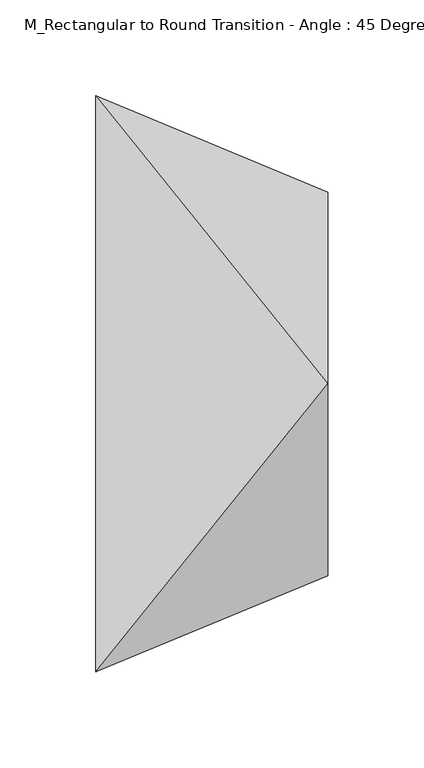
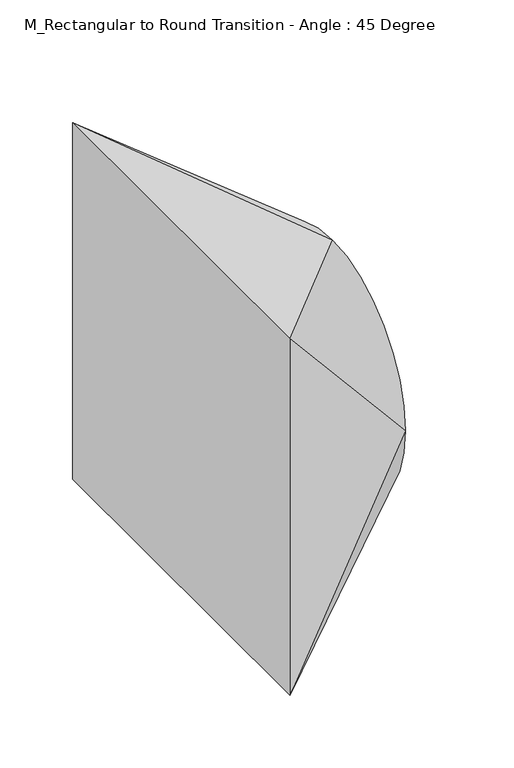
"""IFC4 building model written with IfcOpenShell, lengths in millimetres: duct fitting geometry, M_Rectangular to Round Transition - Angle : 45 Degree."""

import ifcopenshell
import ifcopenshell.guid

model = None  # the IFC model being written
_history = None  # IfcOwnerHistory: only IFC2X3 demands one
_inside = {}  # id of a spatial element -> (the spatial element, [elements in it])
_under = {}  # id of a project, library or spatial element -> (it, [spatial elements below it])
_declared = {}  # id of a project -> (the project, [libraries it declares])
_typed = {}  # id of a type object -> (the type object, [elements of that type])
_made_of = {}  # id of a material, layer set ... -> (it, [elements and type objects made of it])


def new_model(schema):
    """Start an empty IFC model of exactly this schema.

    Asked for "IFC4X3", IfcOpenShell would pick the latest addendum, in which some entities
    have other attributes; the version numbers below select the first issue.
    IFC2X3 requires an IfcOwnerHistory on every rooted entity: one is made here for all.
    """
    global model, _history
    if schema == "IFC4X3":
        model = ifcopenshell.file(schema_version=(4, 3, 0, 0))
    else:
        model = ifcopenshell.file(schema=schema)
    _inside.clear()
    _under.clear()
    _declared.clear()
    _typed.clear()
    _made_of.clear()
    _history = None
    if model.schema == "IFC2X3":
        org = make("IfcOrganization", Name="unknown")
        user = make(
            "IfcPersonAndOrganization",
            ThePerson=make("IfcPerson", FamilyName="unknown"),
            TheOrganization=org,
        )
        app = make(
            "IfcApplication",
            ApplicationDeveloper=org,
            Version="unknown",
            ApplicationFullName="unknown",
            ApplicationIdentifier="unknown",
        )
        _history = make(
            "IfcOwnerHistory",
            OwningUser=user,
            OwningApplication=app,
            ChangeAction="ADDED",
            CreationDate=0,
        )
    return model


def make(cls, **values):
    """One entity of the class cls with the attributes given. An attribute that is None is left unset."""
    return model.create_entity(
        cls, **{name: value for name, value in values.items() if value is not None}
    )


def rooted(cls, **values):
    """An entity with a GlobalId (a new one), such as an element, a storey or a relation."""
    return make(cls, GlobalId=ifcopenshell.guid.new(), OwnerHistory=_history, **values)


def si_unit(unit_type, name, prefix=None):
    """IfcSIUnit, for example si_unit("LENGTHUNIT", "METRE", prefix="MILLI")."""
    return make("IfcSIUnit", UnitType=unit_type, Prefix=prefix, Name=name)


def assignment(units):
    """IfcUnitAssignment: the units of a project."""
    return None if units is None else make("IfcUnitAssignment", Units=units)


def point(xyz):
    """IfcCartesianPoint."""
    return None if xyz is None else make("IfcCartesianPoint", Coordinates=xyz)


def direction(xyz):
    """IfcDirection."""
    return None if xyz is None else make("IfcDirection", DirectionRatios=xyz)


def frame(location, z_axis=None, x_axis=None):
    """IfcAxis2Placement3D, a coordinate frame: its origin and axes. An axis left out is left unset."""
    return make(
        "IfcAxis2Placement3D",
        Location=point(location),
        Axis=direction(z_axis),
        RefDirection=direction(x_axis),
    )


def origin():
    """The frame at (0, 0, 0) with its axes left unset."""
    return frame((0.0, 0.0, 0.0))


def place(relative_to, where):
    """IfcLocalPlacement: puts the frame where relative to a parent placement (None: the world)."""
    return make(
        "IfcLocalPlacement", PlacementRelTo=relative_to, RelativePlacement=where
    )


def context(
    kind, dimensions, precision=None, world=None, true_north=None, identifier=None
):
    """IfcGeometricRepresentationContext, for example the 3D "Model" context."""
    return make(
        "IfcGeometricRepresentationContext",
        ContextIdentifier=identifier,
        ContextType=kind,
        CoordinateSpaceDimension=dimensions,
        Precision=precision,
        WorldCoordinateSystem=world,
        TrueNorth=true_north,
    )


def project(units=None, contexts=None):
    """IfcProject with its units and contexts."""
    return rooted(
        "IfcProject",
        Name="project",
        RepresentationContexts=contexts,
        UnitsInContext=assignment(units),
    )


def spatial(cls, under=None, at=None, **own):
    """A site, building, storey or space (cls), placed at a placement, below another one or the project."""
    s = rooted(cls, ObjectPlacement=at, **own)
    if under is not None:
        _under.setdefault(under.id(), (under, []))[1].append(s)
    return s


def circle_curve(where, radius):
    """IfcCircle in the frame where."""
    return make("IfcCircle", Position=where, Radius=radius)


def shape(context_of_items, identifier, shape_type, items):
    """IfcShapeRepresentation: the items that make up one representation, for example the "Body"."""
    return make(
        "IfcShapeRepresentation",
        ContextOfItems=context_of_items,
        RepresentationIdentifier=identifier,
        RepresentationType=shape_type,
        Items=items,
    )


def source(mapping_origin, context_of_items, identifier, shape_type, items):
    """IfcRepresentationMap: a shape defined once, which mapped items show again and again."""
    return make(
        "IfcRepresentationMap",
        MappingOrigin=mapping_origin,
        MappedRepresentation=shape(context_of_items, identifier, shape_type, items),
    )


def transform(
    local_origin,
    x_axis=None,
    y_axis=None,
    z_axis=None,
    scale=None,
    scale2=None,
    scale3=None,
    uniform=True,
):
    """IfcCartesianTransformationOperator3D, or its non-uniform kind. x_axis, y_axis, z_axis: its Axis1, 2, 3."""
    if uniform:
        return make(
            "IfcCartesianTransformationOperator3D",
            Axis1=direction(x_axis),
            Axis2=direction(y_axis),
            LocalOrigin=point(local_origin),
            Scale=scale,
            Axis3=direction(z_axis),
        )
    return make(
        "IfcCartesianTransformationOperator3DnonUniform",
        Axis1=direction(x_axis),
        Axis2=direction(y_axis),
        LocalOrigin=point(local_origin),
        Scale=scale,
        Axis3=direction(z_axis),
        Scale2=scale2,
        Scale3=scale3,
    )


def mapped(mapping_source, mapping_target):
    """IfcMappedItem: shows the shape of a source again, moved by a transform."""
    return make(
        "IfcMappedItem", MappingSource=mapping_source, MappingTarget=mapping_target
    )


def made_of(thing, what):
    """Note that an element or type object is made of a material, layer set ...; save() writes the relation."""
    if what is not None:
        _made_of.setdefault(what.id(), (what, []))[1].append(thing)
    return thing


def element(
    cls,
    number,
    at=None,
    inside=None,
    cuts=None,
    type_object=None,
    material=None,
    context=None,
    identifier="Body",
    shape_type=None,
    held_by="IfcProductDefinitionShape",
    body=None,
    shapes=None,
    **own,
):
    """One element of the class cls, such as IfcWall. Its Tag is "e" and its number.

    at: its placement. inside: the storey or other place that contains it. cuts: it is an
    opening in that element (IfcRelVoidsElement). A single representation is given by context,
    identifier, shape_type and body (its items); several are given by shapes. held_by: the class
    of the entity that holds the representations. save() writes the other relations.
    """
    e = rooted(cls, Tag="e%d" % number, ObjectPlacement=at, **own)
    if body is not None:
        shapes = [shape(context, identifier, shape_type, body)]
    if shapes is not None:
        e.Representation = make(held_by, Representations=shapes)
    if inside is not None:
        _inside.setdefault(inside.id(), (inside, []))[1].append(e)
    if cuts is not None:
        rooted(
            "IfcRelVoidsElement", RelatingBuildingElement=cuts, RelatedOpeningElement=e
        )
    if type_object is not None:
        _typed.setdefault(type_object.id(), (type_object, []))[1].append(e)
    return made_of(e, material)


def aggregate(whole, parts):
    """IfcRelAggregates: a whole, such as a stair, and the parts it consists of."""
    return rooted("IfcRelAggregates", RelatingObject=whole, RelatedObjects=parts)


def save(model, path):
    """Write the relations noted so far, then the file.

    IfcRelAggregates (storeys below a building ...), IfcRelContainedInSpatialStructure (elements
    in a storey), IfcRelDefinesByType, IfcRelAssociatesMaterial and IfcRelDeclares: one each for
    every whole, place, type object, material and project.
    """
    for whole, parts in _under.values():
        aggregate(whole, parts)
    for where, things in _inside.values():
        rooted(
            "IfcRelContainedInSpatialStructure",
            RelatedElements=things,
            RelatingStructure=where,
        )
    for kind, things in _typed.values():
        rooted("IfcRelDefinesByType", RelatedObjects=things, RelatingType=kind)
    for what, things in _made_of.values():
        rooted("IfcRelAssociatesMaterial", RelatedObjects=things, RelatingMaterial=what)
    for by, libraries in _declared.values():
        rooted("IfcRelDeclares", RelatingContext=by, RelatedDefinitions=libraries)
    model.write(path)


def plane_surface(at):
    """IfcPlane: the flat surface through the origin of the frame at, square to its z axis."""
    return make("IfcPlane", Position=at)


def spline_surface(u_degree, v_degree, points, u_multiplicities, v_multiplicities, u_knots, v_knots, weights=None):
    """IfcBSplineSurfaceWithKnots; with weights, IfcRationalBSplineSurfaceWithKnots. points: one row for each step in u."""
    own = dict(
        UDegree=u_degree,
        VDegree=v_degree,
        ControlPointsList=[[point(p) for p in row] for row in points],
        SurfaceForm="UNSPECIFIED",
        UClosed=False,
        VClosed=False,
        SelfIntersect=False,
        UMultiplicities=u_multiplicities,
        VMultiplicities=v_multiplicities,
        UKnots=u_knots,
        VKnots=v_knots,
        KnotSpec="UNSPECIFIED",
    )
    if weights is None:
        return make("IfcBSplineSurfaceWithKnots", **own)
    return make("IfcRationalBSplineSurfaceWithKnots", WeightsData=weights, **own)


def advanced_brep(points, edges, surfaces, faces):
    """IfcAdvancedBrep: a solid bounded by faces that lie on surfaces and meet in shared edges.

    An edge is (start, end): straight between two places in points (the first is 0);
    or (start, end, curve); or (start, end, curve, False) where it runs against its curve.
    A face is (place in surfaces, loops), or (place, loops, False) where it looks against
    its surface's normal. A loop lists edges by number (the first is 1), with a minus sign
    where the edge is run from its end to its start. The first loop is the outer one.
    """
    corners = [point(p) for p in points]
    vertices = [make("IfcVertexPoint", VertexGeometry=c) for c in corners]
    made = []
    for start, end, *more in edges:
        made.append(
            make(
                "IfcEdgeCurve",
                EdgeStart=vertices[start],
                EdgeEnd=vertices[end],
                EdgeGeometry=more[0] if more else make("IfcPolyline", Points=[corners[start], corners[end]]),
                SameSense=more[1] if len(more) > 1 else True,
            )
        )
    hull = []
    for where, loops, *sense in faces:
        bounds = []
        for j, loop in enumerate(loops):
            ring = [make("IfcOrientedEdge", EdgeElement=made[abs(k) - 1], Orientation=k > 0) for k in loop]
            bounds.append(
                make(
                    "IfcFaceOuterBound" if j == 0 else "IfcFaceBound",
                    Bound=make("IfcEdgeLoop", EdgeList=ring),
                    Orientation=True,
                )
            )
        hull.append(make("IfcAdvancedFace", Bounds=bounds, FaceSurface=surfaces[where], SameSense=sense[0] if sense else True))
    return make("IfcAdvancedBrep", Outer=make("IfcClosedShell", CfsFaces=hull))


def m_rectangular_to_round_transition_angle_45_degree_7471e4b7(model_context):
    return source(origin(), model_context, "Body", "AdvancedBrep", [
        advanced_brep(
        [(0.0, -150.0, -150.0), (0.0, -150.0, 150.0), (0.0, 150.0, 150.0), (0.0, 150.0, -150.0), (120.7106781, -99.9872707, 0.0), (120.7106781, 0.0127293, -100.0), (120.7106781, 100.0127293, 0.0), (120.7106781, 0.0127293, 100.0)],
        [
            (0, 1),
            (1, 2),
            (2, 3),
            (3, 0),
            (4, 5, circle_curve(frame((120.7106781, 0.0127293, 0.0), z_axis=(1.0, 0.0, 0.0), x_axis=(0.0, -1.0, 0.0)), 100.0)),
            (5, 6, circle_curve(frame((120.7106781, 0.0127293, 0.0), z_axis=(1.0, 0.0, 0.0), x_axis=(0.0, -1.0, 0.0)), 100.0)),
            (6, 7, circle_curve(frame((120.7106781, 0.0127293, 0.0), z_axis=(1.0, 0.0, 0.0), x_axis=(0.0, -1.0, 0.0)), 100.0)),
            (7, 4, circle_curve(frame((120.7106781, 0.0127293, 0.0), z_axis=(1.0, 0.0, 0.0), x_axis=(0.0, -1.0, 0.0)), 100.0)),
            (0, 4),
            (4, 1),
            (7, 1),
            (7, 2),
            (6, 2),
            (6, 3),
            (5, 3),
            (5, 0),
        ],
        [
            plane_surface(frame((0.0, 0.0, 0.0), z_axis=(-1.0, 0.0, 0.0), x_axis=(0.0, 1.0, 0.0))),
            plane_surface(frame((120.7106781, 0.0127293, 0.0), z_axis=(1.0, 0.0, 0.0), x_axis=(0.0, 1.0, 0.0))),
            plane_surface(frame((120.7106781, -99.9872707, 0.0), z_axis=(0.38276658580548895, -0.923845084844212, 0.0), x_axis=(0.0, 0.0, 1.0))),
            spline_surface(2, 1, [[(120.7106781, -99.9872707, 0.0), (0.0, -150.0, 150.0)], [(120.7106781, -99.9872707, 100.0), (0.0, -150.0, 150.0)], [(120.7106781, 0.0127293, 100.0), (0.0, -150.0, 150.0)]], [3, 3], [2, 2], [0.0, 1.0], [0.0, 1.0], weights=[[1.0, 1.0], [0.7071067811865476, 0.7071067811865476], [1.0, 1.0]]),
            plane_surface(frame((120.7106781, 0.0127293, 100.0), z_axis=(0.3826834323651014, 0.0, 0.923879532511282), x_axis=(0.0, 1.0, 0.0))),
            spline_surface(2, 1, [[(120.7106781, 0.0127293, 100.0), (0.0, 150.0, 150.0)], [(120.7106781, 100.0127293, 100.0), (0.0, 150.0, 150.0)], [(120.7106781, 100.0127293, 0.0), (0.0, 150.0, 150.0)]], [3, 3], [2, 2], [0.0, 1.0], [0.0, 1.0], weights=[[1.0, 1.0], [0.7071067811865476, 0.7071067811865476], [1.0, 1.0]]),
            plane_surface(frame((120.7106781, 100.0127293, 0.0), z_axis=(0.382600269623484, 0.9239139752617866, 0.0), x_axis=(0.0, 0.0, -1.0))),
            spline_surface(2, 1, [[(120.7106781, 100.0127293, 0.0), (0.0, 150.0, -150.0)], [(120.7106781, 100.0127293, -100.0), (0.0, 150.0, -150.0)], [(120.7106781, 0.0127293, -100.0), (0.0, 150.0, -150.0)]], [3, 3], [2, 2], [0.0, 1.0], [0.0, 1.0], weights=[[1.0, 1.0], [0.7071067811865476, 0.7071067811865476], [1.0, 1.0]]),
            plane_surface(frame((120.7106781, 0.0127293, -100.0), z_axis=(0.382683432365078, 0.0, -0.9238795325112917), x_axis=(0.0, -1.0, 0.0))),
            spline_surface(2, 1, [[(120.7106781, 0.0127293, -100.0), (0.0, -150.0, -150.0)], [(120.7106781, -99.9872707, -100.0), (0.0, -150.0, -150.0)], [(120.7106781, -99.9872707, 0.0), (0.0, -150.0, -150.0)]], [3, 3], [2, 2], [0.0, 1.0], [0.0, 1.0], weights=[[1.0, 1.0], [0.7071067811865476, 0.7071067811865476], [1.0, 1.0]]),
        ],
        [
            (0, [[1, 2, 3, 4]]),
            (1, [[5, 6, 7, 8]]),
            (2, [[-1, 9, 10]]),
            (3, [[-8, 11, -10]]),
            (4, [[-2, -11, 12]]),
            (5, [[-7, 13, -12]]),
            (6, [[-3, -13, 14]]),
            (7, [[-6, 15, -14]]),
            (8, [[-4, -15, 16]]),
            (9, [[-5, -9, -16]]),
        ],
    ),
        advanced_brep(
        [(0.0, -150.0, -150.0), (0.0, -150.0, 150.0), (0.0, 150.0, 150.0), (0.0, 150.0, -150.0), (120.7106781, -99.9872707, 0.0), (120.7106781, 0.0127293, -100.0), (120.7106781, 100.0127293, 0.0), (120.7106781, 0.0127293, 100.0)],
        [
            (0, 1),
            (1, 2),
            (2, 3),
            (3, 0),
            (4, 5, circle_curve(frame((120.7106781, 0.0127293, 0.0), z_axis=(1.0, 0.0, 0.0), x_axis=(0.0, -1.0, 0.0)), 100.0)),
            (5, 6, circle_curve(frame((120.7106781, 0.0127293, 0.0), z_axis=(1.0, 0.0, 0.0), x_axis=(0.0, -1.0, 0.0)), 100.0)),
            (6, 7, circle_curve(frame((120.7106781, 0.0127293, 0.0), z_axis=(1.0, 0.0, 0.0), x_axis=(0.0, -1.0, 0.0)), 100.0)),
            (7, 4, circle_curve(frame((120.7106781, 0.0127293, 0.0), z_axis=(1.0, 0.0, 0.0), x_axis=(0.0, -1.0, 0.0)), 100.0)),
            (0, 4),
            (4, 1),
            (7, 1),
            (7, 2),
            (6, 2),
            (6, 3),
            (5, 3),
            (5, 0),
        ],
        [
            plane_surface(frame((0.0, 0.0, 0.0), z_axis=(-1.0, 0.0, 0.0), x_axis=(0.0, 1.0, 0.0))),
            plane_surface(frame((120.7106781, 0.0127293, 0.0), z_axis=(1.0, 0.0, 0.0), x_axis=(0.0, 1.0, 0.0))),
            plane_surface(frame((120.7106781, -99.9872707, 0.0), z_axis=(0.3827665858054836, -0.9238450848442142, 0.0), x_axis=(0.0, 0.0, 1.0))),
            spline_surface(2, 1, [[(120.7106781, -99.9872707, 0.0), (0.0, -150.0, 150.0)], [(120.7106781, -99.9872707, 100.0), (0.0, -150.0, 150.0)], [(120.7106781, 0.0127293, 100.0), (0.0, -150.0, 150.0)]], [3, 3], [2, 2], [0.0, 1.0], [0.0, 1.0], weights=[[1.0, 1.0], [0.7071067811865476, 0.7071067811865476], [1.0, 1.0]]),
            plane_surface(frame((120.7106781, 0.0127293, 100.0), z_axis=(0.3826834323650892, 0.0, 0.923879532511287), x_axis=(0.0, 1.0, 0.0))),
            spline_surface(2, 1, [[(120.7106781, 0.0127293, 100.0), (0.0, 150.0, 150.0)], [(120.7106781, 100.0127293, 100.0), (0.0, 150.0, 150.0)], [(120.7106781, 100.0127293, 0.0), (0.0, 150.0, 150.0)]], [3, 3], [2, 2], [0.0, 1.0], [0.0, 1.0], weights=[[1.0, 1.0], [0.7071067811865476, 0.7071067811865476], [1.0, 1.0]]),
            plane_surface(frame((120.7106781, 100.0127293, 0.0), z_axis=(0.3826002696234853, 0.9239139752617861, 0.0), x_axis=(0.0, 0.0, -1.0))),
            spline_surface(2, 1, [[(120.7106781, 100.0127293, 0.0), (0.0, 150.0, -150.0)], [(120.7106781, 100.0127293, -100.0), (0.0, 150.0, -150.0)], [(120.7106781, 0.0127293, -100.0), (0.0, 150.0, -150.0)]], [3, 3], [2, 2], [0.0, 1.0], [0.0, 1.0], weights=[[1.0, 1.0], [0.7071067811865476, 0.7071067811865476], [1.0, 1.0]]),
            plane_surface(frame((120.7106781, 0.0127293, -100.0), z_axis=(0.3826834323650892, 0.0, -0.923879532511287), x_axis=(0.0, -1.0, 0.0))),
            spline_surface(2, 1, [[(120.7106781, 0.0127293, -100.0), (0.0, -150.0, -150.0)], [(120.7106781, -99.9872707, -100.0), (0.0, -150.0, -150.0)], [(120.7106781, -99.9872707, 0.0), (0.0, -150.0, -150.0)]], [3, 3], [2, 2], [0.0, 1.0], [0.0, 1.0], weights=[[1.0, 1.0], [0.7071067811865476, 0.7071067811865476], [1.0, 1.0]]),
        ],
        [
            (0, [[1, 2, 3, 4]]),
            (1, [[5, 6, 7, 8]]),
            (2, [[-1, 9, 10]]),
            (3, [[-8, 11, -10]]),
            (4, [[-2, -11, 12]]),
            (5, [[-7, 13, -12]]),
            (6, [[-3, -13, 14]]),
            (7, [[-6, 15, -14]]),
            (8, [[-4, -15, 16]]),
            (9, [[-5, -9, -16]]),
        ],
    ),
        advanced_brep(
        [(120.7106781, 0.0127293, 100.0), (120.7106781, -99.9872707, 0.0), (120.7106781, 0.0127293, -100.0), (120.7106781, 100.0127293, 0.0), (0.0, -150.0, 150.0), (0.0, 150.0, 150.0), (0.0, 150.0, -150.0), (0.0, -150.0, -150.0)],
        [
            (0, 1, circle_curve(frame((120.7106781, 0.0127293, 0.0), z_axis=(1.0, 0.0, 0.0), x_axis=(0.0, 1.0, 0.0)), 100.0)),
            (1, 2, circle_curve(frame((120.7106781, 0.0127293, 0.0), z_axis=(1.0, 0.0, 0.0), x_axis=(0.0, 1.0, 0.0)), 100.0)),
            (2, 3, circle_curve(frame((120.7106781, 0.0127293, 0.0), z_axis=(1.0, 0.0, 0.0), x_axis=(0.0, 1.0, 0.0)), 100.0)),
            (3, 0, circle_curve(frame((120.7106781, 0.0127293, 0.0), z_axis=(1.0, 0.0, 0.0), x_axis=(0.0, 1.0, 0.0)), 100.0)),
            (4, 5),
            (5, 6),
            (6, 7),
            (7, 4),
            (0, 4),
            (4, 1),
            (7, 1),
            (7, 2),
            (6, 2),
            (6, 3),
            (5, 3),
            (5, 0),
        ],
        [
            plane_surface(frame((120.7106781, 0.0127293, 0.0), z_axis=(1.0, 0.0, 0.0), x_axis=(0.0, 0.0, -1.0))),
            plane_surface(frame((0.0, 0.0, 0.0), z_axis=(-1.0, 0.0, 0.0), x_axis=(0.0, 0.0, -1.0))),
            spline_surface(2, 1, [[(0.0, -150.0, 150.0), (120.7106781, 0.0127293, 100.0)], [(0.0, -150.0, 150.0), (120.7106781, -99.9872707, 100.0)], [(0.0, -150.0, 150.0), (120.7106781, -99.9872707, 0.0)]], [3, 3], [2, 2], [0.0, 1.0], [0.0, 1.0], weights=[[1.0, 1.0], [0.7071067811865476, 0.7071067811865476], [1.0, 1.0]]),
            plane_surface(frame((0.0, -150.0, 0.0), z_axis=(0.3827665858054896, -0.9238450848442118, 0.0), x_axis=(0.0, 0.0, -1.0))),
            spline_surface(2, 1, [[(0.0, -150.0, -150.0), (120.7106781, -99.9872707, 0.0)], [(0.0, -150.0, -150.0), (120.7106781, -99.9872707, -100.0)], [(0.0, -150.0, -150.0), (120.7106781, 0.0127293, -100.0)]], [3, 3], [2, 2], [0.0, 1.0], [0.0, 1.0], weights=[[1.0, 1.0], [0.7071067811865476, 0.7071067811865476], [1.0, 1.0]]),
            plane_surface(frame((0.0, 0.0, -150.0), z_axis=(0.38268343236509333, 0.0, -0.9238795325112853), x_axis=(0.0, 1.0, 0.0))),
            spline_surface(2, 1, [[(0.0, 150.0, -150.0), (120.7106781, 0.0127293, -100.0)], [(0.0, 150.0, -150.0), (120.7106781, 100.0127293, -100.0)], [(0.0, 150.0, -150.0), (120.7106781, 100.0127293, 0.0)]], [3, 3], [2, 2], [0.0, 1.0], [0.0, 1.0], weights=[[1.0, 1.0], [0.7071067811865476, 0.7071067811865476], [1.0, 1.0]]),
            plane_surface(frame((0.0, 150.0, 0.0), z_axis=(0.3826002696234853, 0.9239139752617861, 0.0), x_axis=(0.0, 0.0, 1.0))),
            spline_surface(2, 1, [[(0.0, 150.0, 150.0), (120.7106781, 100.0127293, 0.0)], [(0.0, 150.0, 150.0), (120.7106781, 100.0127293, 100.0)], [(0.0, 150.0, 150.0), (120.7106781, 0.0127293, 100.0)]], [3, 3], [2, 2], [0.0, 1.0], [0.0, 1.0], weights=[[1.0, 1.0], [0.7071067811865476, 0.7071067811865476], [1.0, 1.0]]),
            plane_surface(frame((0.0, 0.0, 150.0), z_axis=(0.38268343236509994, 0.0, 0.9238795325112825), x_axis=(0.0, -1.0, 0.0))),
        ],
        [
            (0, [[1, 2, 3, 4]]),
            (1, [[5, 6, 7, 8]]),
            (2, [[-1, 9, 10]]),
            (3, [[-8, 11, -10]]),
            (4, [[-2, -11, 12]]),
            (5, [[-7, 13, -12]]),
            (6, [[-3, -13, 14]]),
            (7, [[-6, 15, -14]]),
            (8, [[-4, -15, 16]]),
            (9, [[-5, -9, -16]]),
        ],
    ),
    ])


if __name__ == "__main__":
    model = new_model("IFC4")
    model_context = context("Model", 3, world=origin())
    ifc_project = project(units=[si_unit("LENGTHUNIT", "METRE", prefix="MILLI")], contexts=[model_context])
    site = spatial("IfcSite", under=ifc_project)
    building = spatial("IfcBuilding", under=site)
    placement = place(None, origin())
    m_rectangular_to_round_transition_angle_45_degree_shape = m_rectangular_to_round_transition_angle_45_degree_7471e4b7(model_context)
    element("IfcDuctFitting", 1, ObjectType="M_Rectangular to Round Transition - Angle : 45 Degree", at=placement, inside=building, context=model_context, shape_type="MappedRepresentation", body=[
        mapped(m_rectangular_to_round_transition_angle_45_degree_shape, transform((0.0, 0.0, 0.0), x_axis=(1.0, 0.0, 0.0), y_axis=(0.0, 1.0, 0.0), z_axis=(0.0, 0.0, 1.0))),
    ])
    save(model, "model.ifc")
